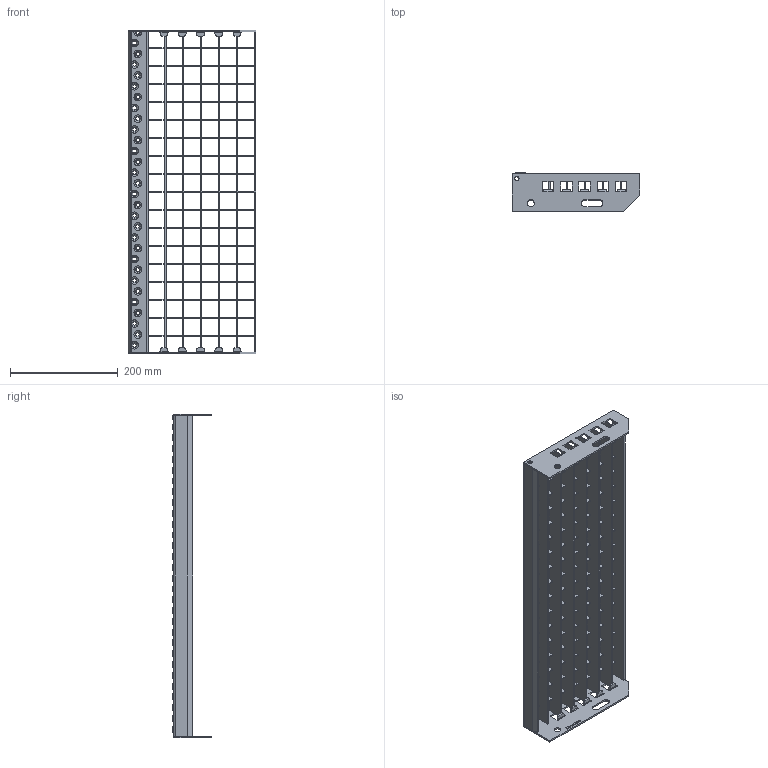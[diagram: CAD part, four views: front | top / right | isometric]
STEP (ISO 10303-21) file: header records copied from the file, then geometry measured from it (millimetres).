
FILE_DESCRIPTION(/* description */ ('','CAx-IF Rec.Pracs.---Representation and Presentation of Product Manufacturing Information (PMI)---3.8---2014-02-18'),/* implementation_level */ '2;1');
FILE_NAME(/* name */ 'C:\Users\phaverkotte\Desktop\Lager STEP\P-Stufen\P 230-33-2\P 230-33-2 600mm x 240mm.stp',/* time_stamp */ '2018-03-24T08:50:13+01:00',/* author */ ('phaverkotte'),/* organization */ (''),/* preprocessor_version */ 'ST-DEVELOPER v16.13',/* originating_system */ 'Autodesk Inventor 2018',/* authorisation */ '');
FILE_SCHEMA (('AP242_MANAGED_MODEL_BASED_3D_ENGINEERING_MIM_LF { 1 0 10303 442 1 1 4 }'));
Length unit declared in the file: millimetre
Products named in the file (8): Schodišťový stupeň přím
ý lisovaný; Seitenplatte ausgeklinkt links; Seitenplatte 240 ausgeklinkt extern rechts; Schod nášlap; P Rošt schodu; Querstab; P Nosný pás; Hinteres Flach
Assembly tree (28 placements, depth 3):
  Schodišťový stupeň přím
ý lisovaný
    Seitenplatte ausgeklinkt links
    Seitenplatte 240 ausgeklinkt extern rechts
    Schod nášlap
    P Rošt schodu
      Querstab  x17
      P Nosný pás  x6
      Hinteres Flach
Bounding box: 236.98 x 72.75 x 600 mm (x, y, z)
Volume: 487139.4 mm3; surface area: 489248.4 mm2
Topology: 27 solids, 27 shells, 1090 faces, 2969 edges, 1950 vertices
Faces by surface type: plane 838, cylinder 112, cone 90, torus 30, bspline 20
Full cylindrical faces by diameter (mm): 8 x2, 13 x2
Entity records: 22576 total; most frequent: CARTESIAN_POINT 6761, DIRECTION 3128, ORIENTED_EDGE 3036, EDGE_CURVE 1518, LINE 1096, VECTOR 1096, VERTEX_POINT 1043, AXIS2_PLACEMENT_3D 1016
